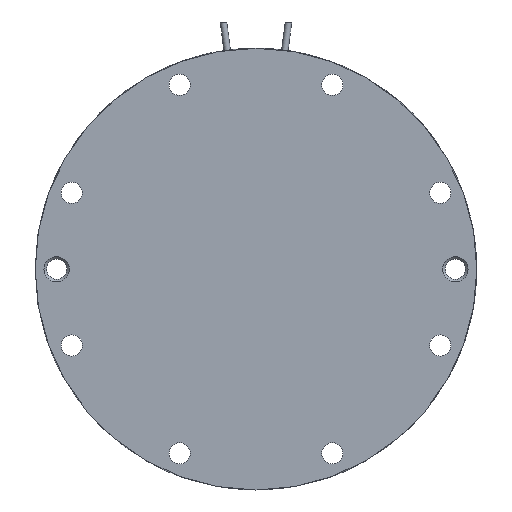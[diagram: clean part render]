
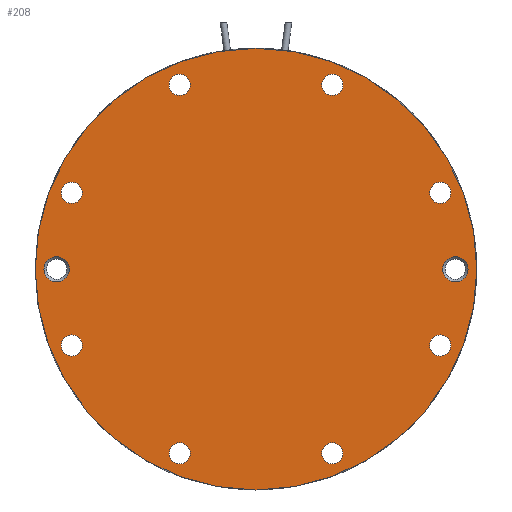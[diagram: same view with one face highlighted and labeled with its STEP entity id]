
A CAD part, front view. The second image highlights one B-rep face of the part: STEP entity #208.
In plain terms, the highlighted planar face has unit normal (0, -1, 0).
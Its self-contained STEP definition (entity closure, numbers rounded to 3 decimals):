
#208 = ADVANCED_FACE( '', ( #536, #537, #538, #539, #540, #541, #542, #543, #544, #545, #546 ), #547, .F. );
#536 = FACE_BOUND( '', #1249, .T. );
#537 = FACE_BOUND( '', #1250, .T. );
#538 = FACE_BOUND( '', #1251, .T. );
#539 = FACE_BOUND( '', #1252, .T. );
#540 = FACE_BOUND( '', #1253, .T. );
#541 = FACE_BOUND( '', #1254, .T. );
#542 = FACE_BOUND( '', #1255, .T. );
#543 = FACE_BOUND( '', #1256, .T. );
#544 = FACE_BOUND( '', #1257, .T. );
#545 = FACE_BOUND( '', #1258, .T. );
#546 = FACE_OUTER_BOUND( '', #1259, .T. );
#547 = PLANE( '', #1260 );
#1249 = EDGE_LOOP( '', ( #2114 ) );
#1250 = EDGE_LOOP( '', ( #2115 ) );
#1251 = EDGE_LOOP( '', ( #2116 ) );
#1252 = EDGE_LOOP( '', ( #2117 ) );
#1253 = EDGE_LOOP( '', ( #2118 ) );
#1254 = EDGE_LOOP( '', ( #2119 ) );
#1255 = EDGE_LOOP( '', ( #2120 ) );
#1256 = EDGE_LOOP( '', ( #2121 ) );
#1257 = EDGE_LOOP( '', ( #2122 ) );
#1258 = EDGE_LOOP( '', ( #2123 ) );
#1259 = EDGE_LOOP( '', ( #2124 ) );
#1260 = AXIS2_PLACEMENT_3D( '', #2125, #2126, #2127 );
#2114 = ORIENTED_EDGE( '', *, *, #3811, .F. );
#2115 = ORIENTED_EDGE( '', *, *, #3812, .F. );
#2116 = ORIENTED_EDGE( '', *, *, #3724, .F. );
#2117 = ORIENTED_EDGE( '', *, *, #3722, .F. );
#2118 = ORIENTED_EDGE( '', *, *, #3720, .F. );
#2119 = ORIENTED_EDGE( '', *, *, #3718, .F. );
#2120 = ORIENTED_EDGE( '', *, *, #3716, .F. );
#2121 = ORIENTED_EDGE( '', *, *, #3714, .F. );
#2122 = ORIENTED_EDGE( '', *, *, #3726, .F. );
#2123 = ORIENTED_EDGE( '', *, *, #3728, .F. );
#2124 = ORIENTED_EDGE( '', *, *, #3813, .T. );
#2125 = CARTESIAN_POINT( '', ( 87.5, 0., 0. ) );
#2126 = DIRECTION( '', ( 0., 1., 0. ) );
#2127 = DIRECTION( '', ( 0., 0., 1. ) );
#3714 = EDGE_CURVE( '', #4230, #4230, #4231, .T. );
#3716 = EDGE_CURVE( '', #4234, #4234, #4235, .T. );
#3718 = EDGE_CURVE( '', #4238, #4238, #4239, .T. );
#3720 = EDGE_CURVE( '', #4242, #4242, #4243, .T. );
#3722 = EDGE_CURVE( '', #4246, #4246, #4247, .T. );
#3724 = EDGE_CURVE( '', #4250, #4250, #4251, .T. );
#3726 = EDGE_CURVE( '', #4254, #4254, #4255, .T. );
#3728 = EDGE_CURVE( '', #4258, #4258, #4259, .T. );
#3811 = EDGE_CURVE( '', #4407, #4407, #4408, .T. );
#3812 = EDGE_CURVE( '', #4409, #4409, #4410, .T. );
#3813 = EDGE_CURVE( '', #4411, #4411, #4412, .T. );
#4230 = VERTEX_POINT( '', #5212 );
#4231 = CIRCLE( '', #5213, 4.2 );
#4234 = VERTEX_POINT( '', #5216 );
#4235 = CIRCLE( '', #5217, 4.2 );
#4238 = VERTEX_POINT( '', #5220 );
#4239 = CIRCLE( '', #5221, 4.2 );
#4242 = VERTEX_POINT( '', #5224 );
#4243 = CIRCLE( '', #5225, 4.2 );
#4246 = VERTEX_POINT( '', #5228 );
#4247 = CIRCLE( '', #5229, 4.2 );
#4250 = VERTEX_POINT( '', #5232 );
#4251 = CIRCLE( '', #5233, 4.2 );
#4254 = VERTEX_POINT( '', #5236 );
#4255 = CIRCLE( '', #5237, 4.2 );
#4258 = VERTEX_POINT( '', #5240 );
#4259 = CIRCLE( '', #5241, 4.2 );
#4407 = VERTEX_POINT( '', #5453 );
#4408 = CIRCLE( '', #5454, 5. );
#4409 = VERTEX_POINT( '', #5455 );
#4410 = CIRCLE( '', #5456, 5. );
#4411 = VERTEX_POINT( '', #5457 );
#4412 = CIRCLE( '', #5458, 87.5 );
#5212 = CARTESIAN_POINT( '', ( -30.232, 0., -77.186 ) );
#5213 = AXIS2_PLACEMENT_3D( '', #6707, #6708, #6709 );
#5216 = CARTESIAN_POINT( '', ( -72.986, 0., -34.432 ) );
#5217 = AXIS2_PLACEMENT_3D( '', #6713, #6714, #6715 );
#5220 = CARTESIAN_POINT( '', ( -72.986, 0., 26.032 ) );
#5221 = AXIS2_PLACEMENT_3D( '', #6719, #6720, #6721 );
#5224 = CARTESIAN_POINT( '', ( -30.232, 0., 68.786 ) );
#5225 = AXIS2_PLACEMENT_3D( '', #6725, #6726, #6727 );
#5228 = CARTESIAN_POINT( '', ( 30.232, 0., 68.786 ) );
#5229 = AXIS2_PLACEMENT_3D( '', #6731, #6732, #6733 );
#5232 = CARTESIAN_POINT( '', ( 72.986, 0., 26.032 ) );
#5233 = AXIS2_PLACEMENT_3D( '', #6737, #6738, #6739 );
#5236 = CARTESIAN_POINT( '', ( 30.232, 0., -77.186 ) );
#5237 = AXIS2_PLACEMENT_3D( '', #6743, #6744, #6745 );
#5240 = CARTESIAN_POINT( '', ( 72.986, 0., -34.432 ) );
#5241 = AXIS2_PLACEMENT_3D( '', #6749, #6750, #6751 );
#5453 = CARTESIAN_POINT( '', ( 0., 0., -84. ) );
#5454 = AXIS2_PLACEMENT_3D( '', #6870, #6871, #6872 );
#5455 = CARTESIAN_POINT( '', ( 0., 0., 74. ) );
#5456 = AXIS2_PLACEMENT_3D( '', #6873, #6874, #6875 );
#5457 = CARTESIAN_POINT( '', ( 0., 0., -87.5 ) );
#5458 = AXIS2_PLACEMENT_3D( '', #6876, #6877, #6878 );
#6707 = CARTESIAN_POINT( '', ( -30.232, 0., -72.986 ) );
#6708 = DIRECTION( '', ( 0., -1., 0. ) );
#6709 = DIRECTION( '', ( 0., 0., -1. ) );
#6713 = CARTESIAN_POINT( '', ( -72.986, 0., -30.232 ) );
#6714 = DIRECTION( '', ( 0., -1., 0. ) );
#6715 = DIRECTION( '', ( 0., 0., -1. ) );
#6719 = CARTESIAN_POINT( '', ( -72.986, 0., 30.232 ) );
#6720 = DIRECTION( '', ( 0., -1., 0. ) );
#6721 = DIRECTION( '', ( 0., 0., -1. ) );
#6725 = CARTESIAN_POINT( '', ( -30.232, 0., 72.986 ) );
#6726 = DIRECTION( '', ( 0., -1., 0. ) );
#6727 = DIRECTION( '', ( 0., 0., -1. ) );
#6731 = CARTESIAN_POINT( '', ( 30.232, 0., 72.986 ) );
#6732 = DIRECTION( '', ( 0., -1., 0. ) );
#6733 = DIRECTION( '', ( 0., 0., -1. ) );
#6737 = CARTESIAN_POINT( '', ( 72.986, 0., 30.232 ) );
#6738 = DIRECTION( '', ( 0., -1., 0. ) );
#6739 = DIRECTION( '', ( 0., 0., -1. ) );
#6743 = CARTESIAN_POINT( '', ( 30.232, 0., -72.986 ) );
#6744 = DIRECTION( '', ( 0., -1., 0. ) );
#6745 = DIRECTION( '', ( 0., 0., -1. ) );
#6749 = CARTESIAN_POINT( '', ( 72.986, 0., -30.232 ) );
#6750 = DIRECTION( '', ( 0., -1., 0. ) );
#6751 = DIRECTION( '', ( 0., 0., -1. ) );
#6870 = CARTESIAN_POINT( '', ( 0., 0., -79. ) );
#6871 = DIRECTION( '', ( 0., -1., 0. ) );
#6872 = DIRECTION( '', ( 0., 0., -1. ) );
#6873 = CARTESIAN_POINT( '', ( 0., 0., 79. ) );
#6874 = DIRECTION( '', ( 0., -1., 0. ) );
#6875 = DIRECTION( '', ( 0., 0., -1. ) );
#6876 = CARTESIAN_POINT( '', ( 0., 0., 0. ) );
#6877 = DIRECTION( '', ( 0., -1., 0. ) );
#6878 = DIRECTION( '', ( 0., 0., -1. ) );
